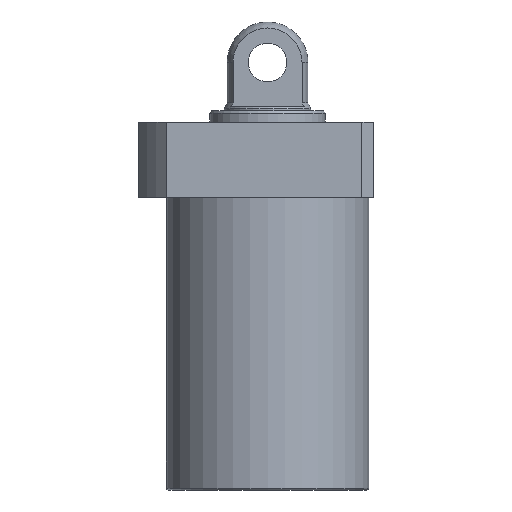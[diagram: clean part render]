
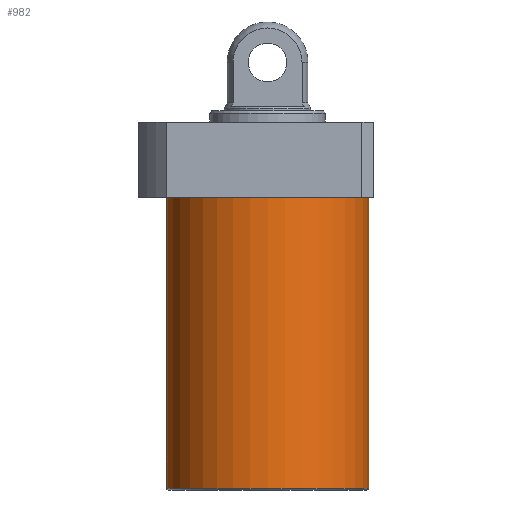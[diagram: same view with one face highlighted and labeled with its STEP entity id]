
A CAD part, front view. The second image highlights one B-rep face of the part: STEP entity #982.
In plain terms, the highlighted cylindrical face has radius 52.5 mm (diameter 105 mm), a partial arc.
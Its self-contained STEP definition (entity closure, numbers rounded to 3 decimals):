
#27 = VERTEX_POINT ( 'NONE', #1209 ) ;
#42 = CIRCLE ( 'NONE', #869, 52.5 ) ;
#123 = ORIENTED_EDGE ( 'NONE', *, *, #307, .T. ) ;
#140 = CARTESIAN_POINT ( 'NONE',  ( -52.5, 0., -171.5 ) ) ;
#161 = DIRECTION ( 'NONE',  ( 0., 0., -1. ) ) ;
#295 = VECTOR ( 'NONE', #1466, 1000. ) ;
#307 = EDGE_CURVE ( 'NONE', #27, #1227, #42, .T. ) ;
#310 = LINE ( 'NONE', #140, #965 ) ;
#339 = DIRECTION ( 'NONE',  ( -1., 0., 0. ) ) ;
#420 = CARTESIAN_POINT ( 'NONE',  ( 0., 0., -19.5 ) ) ;
#423 = DIRECTION ( 'NONE',  ( 0., 0., 1. ) ) ;
#454 = CARTESIAN_POINT ( 'NONE',  ( -52.5, 0., -170.5 ) ) ;
#489 = CARTESIAN_POINT ( 'NONE',  ( -52.5, 0., -19.5 ) ) ;
#514 = AXIS2_PLACEMENT_3D ( 'NONE', #1171, #910, #339 ) ;
#592 = ORIENTED_EDGE ( 'NONE', *, *, #1811, .F. ) ;
#612 = EDGE_LOOP ( 'NONE', ( #592, #1238, #1816, #123 ) ) ;
#696 = DIRECTION ( 'NONE',  ( 1., 0., 0. ) ) ;
#698 = VERTEX_POINT ( 'NONE', #1629 ) ;
#869 = AXIS2_PLACEMENT_3D ( 'NONE', #420, #161, #1407 ) ;
#910 = DIRECTION ( 'NONE',  ( 0., 0., 1. ) ) ;
#965 = VECTOR ( 'NONE', #423, 1000. ) ;
#982 = ADVANCED_FACE ( 'NONE', ( #1754 ), #1553, .T. ) ;
#1021 = VERTEX_POINT ( 'NONE', #454 ) ;
#1126 = EDGE_CURVE ( 'NONE', #1021, #698, #1640, .T. ) ;
#1171 = CARTESIAN_POINT ( 'NONE',  ( 0., 0., -170.5 ) ) ;
#1192 = EDGE_CURVE ( 'NONE', #698, #27, #1347, .T. ) ;
#1209 = CARTESIAN_POINT ( 'NONE',  ( 52.5, 0., -19.5 ) ) ;
#1227 = VERTEX_POINT ( 'NONE', #489 ) ;
#1238 = ORIENTED_EDGE ( 'NONE', *, *, #1126, .T. ) ;
#1347 = LINE ( 'NONE', #1473, #295 ) ;
#1407 = DIRECTION ( 'NONE',  ( 1., 0., 0. ) ) ;
#1411 = CARTESIAN_POINT ( 'NONE',  ( 0., 0., -171.5 ) ) ;
#1465 = AXIS2_PLACEMENT_3D ( 'NONE', #1411, #1556, #696 ) ;
#1466 = DIRECTION ( 'NONE',  ( 0., 0., 1. ) ) ;
#1473 = CARTESIAN_POINT ( 'NONE',  ( 52.5, 0., -171.5 ) ) ;
#1553 = CYLINDRICAL_SURFACE ( 'NONE', #1465, 52.5 ) ;
#1556 = DIRECTION ( 'NONE',  ( 0., 0., 1. ) ) ;
#1629 = CARTESIAN_POINT ( 'NONE',  ( 52.5, 0., -170.5 ) ) ;
#1640 = CIRCLE ( 'NONE', #514, 52.5 ) ;
#1754 = FACE_OUTER_BOUND ( 'NONE', #612, .T. ) ;
#1811 = EDGE_CURVE ( 'NONE', #1021, #1227, #310, .T. ) ;
#1816 = ORIENTED_EDGE ( 'NONE', *, *, #1192, .T. ) ;
